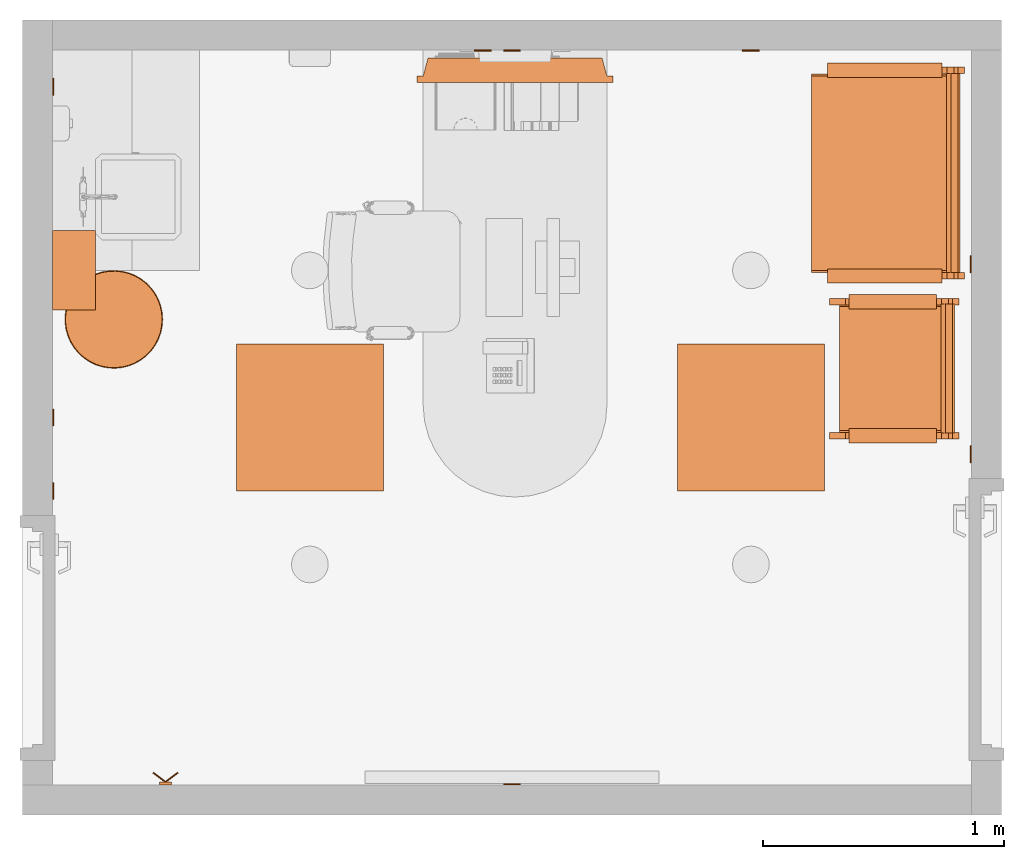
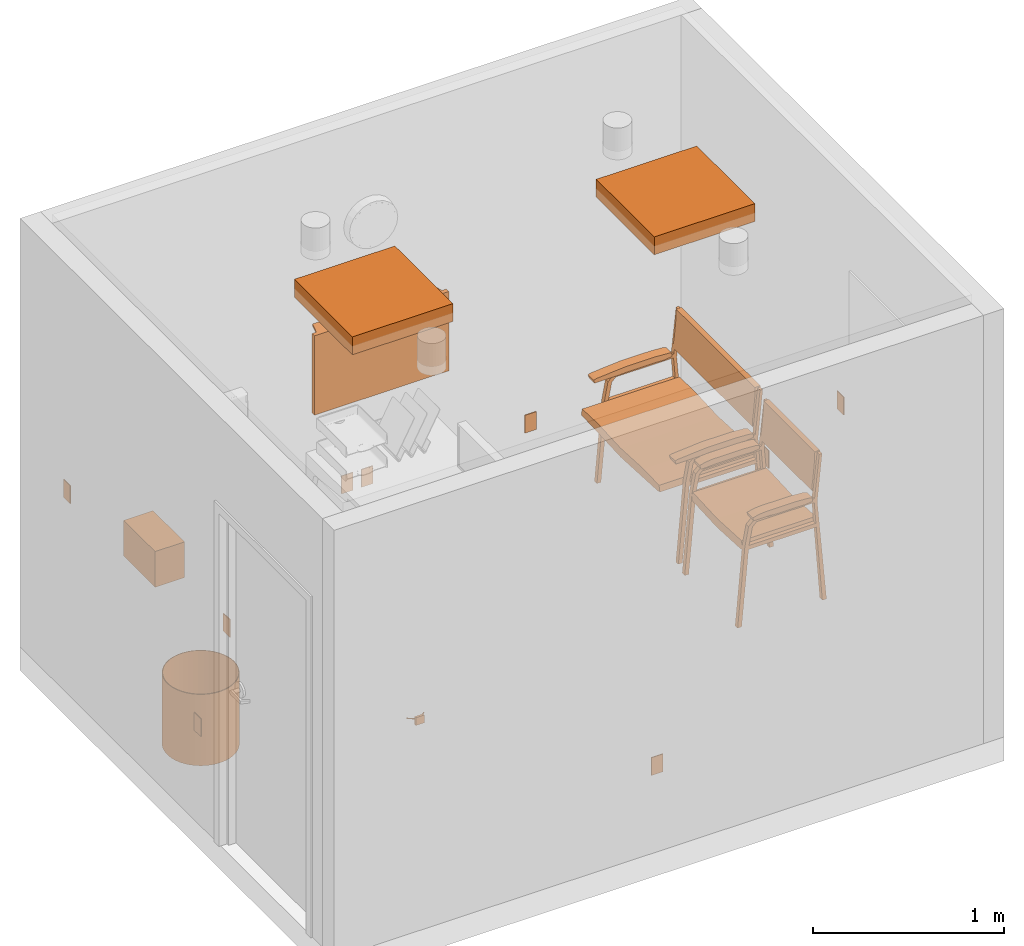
# One storey, part 6 of 10: 17 proxies.
"""IFC2X3 building model written with IfcOpenShell, lengths in feet."""

from ifc_helpers import new_model, entity, si_unit, converted_unit, derived_unit, direction, frame, frame_2d, origin, origin_2d_with_axis, place, context, subcontext, project, spatial, polyline, rectangle, circle, hollow_circle, outline, extrude, source, transform, mapped, type_object, type_shapes, element, save


model = new_model("IFC2X3")

# Units and contexts
model_context = context("Model", 3, precision=0.0001, world=origin(), true_north=direction((6.12303176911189e-17, 1.0)))
body_context = subcontext(model_context, "Body", "Model", "MODEL_VIEW")
ifc_project = project(units=[converted_unit("LENGTHUNIT", "FOOT", entity("IfcRatioMeasure", 0.3048), si_unit("LENGTHUNIT", "METRE"), dimensions=[1, 0, 0, 0, 0, 0, 0]), converted_unit("AREAUNIT", "SQUARE FOOT", entity("IfcRatioMeasure", 0.09290304), si_unit("AREAUNIT", "SQUARE_METRE"), dimensions=[2, 0, 0, 0, 0, 0, 0]), converted_unit("VOLUMEUNIT", "CUBIC FOOT", entity("IfcRatioMeasure", 0.028316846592), si_unit("VOLUMEUNIT", "CUBIC_METRE"), dimensions=[3, 0, 0, 0, 0, 0, 0]), converted_unit("PLANEANGLEUNIT", "DEGREE", entity("IfcRatioMeasure", 0.0174532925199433), si_unit("PLANEANGLEUNIT", "RADIAN"), dimensions=[0, 0, 0, 0, 0, 0, 0]), si_unit("MASSUNIT", "GRAM", prefix="KILO"), derived_unit("MASSDENSITYUNIT", [(si_unit("MASSUNIT", "GRAM", prefix="KILO"), 1), (si_unit("LENGTHUNIT", "METRE"), -3)]), si_unit("TIMEUNIT", "SECOND"), si_unit("FREQUENCYUNIT", "HERTZ"), si_unit("THERMODYNAMICTEMPERATUREUNIT", "DEGREE_CELSIUS"), derived_unit("THERMALTRANSMITTANCEUNIT", [(si_unit("MASSUNIT", "GRAM", prefix="KILO"), 1), (si_unit("THERMODYNAMICTEMPERATUREUNIT", "KELVIN"), -1), (si_unit("TIMEUNIT", "SECOND"), -3)]), derived_unit("VOLUMETRICFLOWRATEUNIT", [(si_unit("LENGTHUNIT", "METRE"), 3), (si_unit("TIMEUNIT", "SECOND"), -1)]), si_unit("ELECTRICCURRENTUNIT", "AMPERE"), si_unit("ELECTRICVOLTAGEUNIT", "VOLT"), si_unit("POWERUNIT", "WATT"), si_unit("FORCEUNIT", "NEWTON"), si_unit("ILLUMINANCEUNIT", "LUX"), si_unit("LUMINOUSFLUXUNIT", "LUMEN"), si_unit("LUMINOUSINTENSITYUNIT", "CANDELA"), derived_unit("USERDEFINED", [(si_unit("MASSUNIT", "GRAM", prefix="KILO"), -1), (si_unit("LENGTHUNIT", "METRE"), -2), (si_unit("TIMEUNIT", "SECOND"), 3), (si_unit("LUMINOUSFLUXUNIT", "LUMEN"), 1)]), derived_unit("LINEARVELOCITYUNIT", [(si_unit("LENGTHUNIT", "METRE"), 1), (si_unit("TIMEUNIT", "SECOND"), -1)]), si_unit("PRESSUREUNIT", "PASCAL"), derived_unit("USERDEFINED", [(si_unit("LENGTHUNIT", "METRE"), -2), (si_unit("MASSUNIT", "GRAM", prefix="KILO"), 1), (si_unit("TIMEUNIT", "SECOND"), -2)])], contexts=[model_context])

# Site, building, storey, space
site_placement = place(None, origin())
site = spatial("IfcSite", under=ifc_project, at=site_placement, Name="Default", CompositionType="ELEMENT")
building_placement = place(site_placement, origin())
building = spatial("IfcBuilding", under=site, at=building_placement, Name="OUTPATIENT / PACT CLINIC (Ch. 265)", CompositionType="ELEMENT")
storey_placement = place(building_placement, origin())
storey = spatial("IfcBuildingStorey", under=building, at=storey_placement, Name="DATUM", CompositionType="ELEMENT", Elevation=0.0)
space_placement = place(storey_placement, origin())
space = spatial("IfcSpace", under=storey, at=space_placement, Name="OFDC2", CompositionType="ELEMENT", InteriorOrExteriorSpace="INTERNAL")

# Proxies
building_element_proxy_type_1 = type_object("IfcBuildingElementProxyType", Name="24\" x 24\"", PredefinedType="NOTDEFINED")
shared_shape_1 = source(origin(), body_context, "Body", "SweptSolid", [
    extrude(rectangle(XDim=2.0, YDim=2.0, at=origin_2d_with_axis()), frame((0.0, 0.0, 8.0)), (0.0, 0.0, 1.0), 0.375),
])
type_shapes(building_element_proxy_type_1, [shared_shape_1])
proxy_1_placement = place(space_placement, frame((-68.7553643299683, -856.690450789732, 1.0)))
element("IfcBuildingElementProxy", 1, at=proxy_1_placement, inside=space, type_object=building_element_proxy_type_1, Name="Return Register:24\" x 24\"", ObjectType="24\" x 24\"", context=body_context, shape_type="MappedRepresentation", body=[
    mapped(shared_shape_1, transform((0.0, 0.0, 0.0), scale=1.0)),
])
building_element_proxy_type_2 = type_object("IfcBuildingElementProxyType", Name="24\" x 24\"", PredefinedType="NOTDEFINED")
shared_shape_2 = source(origin(), body_context, "Body", "SweptSolid", [
    extrude(rectangle(XDim=2.00000000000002, YDim=2.00000000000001, at=origin_2d_with_axis()), frame((0.0, 0.0, 8.0), z_axis=(0.0, 0.0, 1.0), x_axis=(0.0, 1.0, 0.0)), (0.0, 0.0, 1.0), 0.375),
])
type_shapes(building_element_proxy_type_2, [shared_shape_2])
proxy_2_placement = place(space_placement, frame((-74.7553643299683, -856.690450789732, 1.0)))
element("IfcBuildingElementProxy", 2, at=proxy_2_placement, inside=space, type_object=building_element_proxy_type_2, Name="Supply Diffuser:24\" x 24\"", ObjectType="24\" x 24\"", context=body_context, shape_type="MappedRepresentation", body=[
    mapped(shared_shape_2, transform((0.0, 0.0, 0.0), scale=1.0)),
])
building_element_proxy_type_3 = type_object("IfcBuildingElementProxyType", Name="Duplex", PredefinedType="NOTDEFINED")
shared_shape_3 = source(origin(), body_context, "Body", "SweptSolid", [
    extrude(rectangle(XDim=0.0156249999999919, YDim=0.229166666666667, at=origin_2d_with_axis()), frame((0.0, 0.210937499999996, 0.0), z_axis=(0.0, 0.0, 1.0), x_axis=(0.0, 1.0, 0.0)), (0.0, 0.0, 1.0), 0.37500000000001),
])
type_shapes(building_element_proxy_type_3, [shared_shape_3])
proxy_3_placement = place(space_placement, frame((-72.0053884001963, -851.487325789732, 1.31250000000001), z_axis=(0.0, 0.0, 1.0), x_axis=(-1.0, 0.0, 0.0)))
element("IfcBuildingElementProxy", 3, at=proxy_3_placement, inside=space, type_object=building_element_proxy_type_3, Name="Outlet, Duplex, Wall:Duplex", ObjectType="Duplex", context=body_context, shape_type="MappedRepresentation", body=[
    mapped(shared_shape_3, transform((0.0, 0.0, 0.0), scale=1.0)),
])
proxy_4_placement = place(space_placement, frame((-72.0053643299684, -861.893575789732, 1.31249999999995)))
element("IfcBuildingElementProxy", 4, at=proxy_4_placement, inside=space, type_object=building_element_proxy_type_3, Name="Outlet, Duplex, Wall:Duplex", ObjectType="Duplex", context=body_context, shape_type="MappedRepresentation", body=[
    mapped(shared_shape_3, transform((0.0, 0.0, 0.0), scale=1.0)),
])
for number, where, z_axis, x_axis, name in (
    (5, (-78.4584893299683, -856.690450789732, 1.31250000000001), (0.0, 0.0, 1.0), (0.0, -1.0, 0.0), "Outlet, Duplex, Wall:Duplex"),
    (6, (-65.5522393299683, -854.607117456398, 1.3125), (0.0, 0.0, 1.0), (0.0, 1.0, 0.0), "Outlet, Duplex, Wall:Duplex"),
    (7, (-68.7553884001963, -851.487325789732, 1.31250000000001), (0.0, 0.0, 1.0), (-1.0, 0.0, 0.0), "Outlet, Duplex, Wall:Duplex"),
):
    element("IfcBuildingElementProxy", number, at=place(space_placement, frame(where, z_axis=z_axis, x_axis=x_axis)), inside=space, type_object=building_element_proxy_type_3, Name=name, ObjectType="Duplex", context=body_context, shape_type="MappedRepresentation", body=[
        mapped(shared_shape_3, transform((0.0, 0.0, 0.0), scale=1.0)),
    ])
building_element_proxy_type_4 = type_object("IfcBuildingElementProxyType", Name="F0206 - Chair, Side, Bariatric, With Arms", PredefinedType="NOTDEFINED")
shared_shape_4 = source(origin(), body_context, "Body", "SweptSolid", [
    extrude(outline(polyline([(-0.104007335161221, -0.374369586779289), (-0.0277118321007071, -0.374369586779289), (-0.0197350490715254, -0.338348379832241), (0.00592434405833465, -0.182113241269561), (0.0162560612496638, -0.135457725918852), (0.0457826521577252, -0.00212284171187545), (0.0856087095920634, 0.177721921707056), (0.11279838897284, 0.276572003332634), (0.120257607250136, 0.307674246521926), (0.129202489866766, 0.415216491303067), (0.0455811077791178, 0.433734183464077), (0.016702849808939, 0.395704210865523), (-0.0364083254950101, 0.222671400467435), (-0.125070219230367, -0.177704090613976), (-0.13682888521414, -0.27538652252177), (-0.128352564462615, -0.36942248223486), (-0.104007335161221, -0.374369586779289)])), frame((-0.96650236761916, -1.35538162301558, 2.73061112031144), z_axis=(0.0, 1.0, 0.0), x_axis=(0.991475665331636, 0.0, -0.130291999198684)), (0.0, 0.0, 1.0), 2.71239582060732),
    extrude(outline(polyline([(0.21619694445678, -1.29893280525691), (0.358726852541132, -1.29893280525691), (0.359427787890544, -1.28744520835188), (0.131939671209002, 0.0334574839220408), (-0.21576403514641, 1.27413096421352), (-0.250272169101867, 1.33714755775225), (-0.365463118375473, 1.28238708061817), (-0.266199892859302, 0.757316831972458), (-0.0515428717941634, -0.00790943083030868), (0.0829508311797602, -0.791219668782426), (0.21619694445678, -1.29893280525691)])), frame((-0.98091268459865, -0.00278955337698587, 1.62617955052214), z_axis=(1.0, 0.0, 0.0), x_axis=(0.0, -0.219936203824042, -0.975514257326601)), (0.0, 0.0, 1.0), 1.92992997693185),
    extrude(outline(polyline([(-0.642438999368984, -0.27180203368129), (-0.575141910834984, -0.27180203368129), (-0.324245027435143, -0.198283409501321), (0.233932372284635, 0.00487654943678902), (0.761636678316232, 0.245132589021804), (0.812491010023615, 0.279803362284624), (0.769810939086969, 0.339540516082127), (0.329805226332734, 0.179391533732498), (0.164451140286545, 0.108352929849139), (-0.336640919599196, -0.0740296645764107), (-0.526951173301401, -0.136060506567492), (-0.66670933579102, -0.205119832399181), (-0.642438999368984, -0.27180203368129)])), frame((-0.128686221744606, -1.49875249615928, 2.22407286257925), z_axis=(0.0, 1.0, 0.0), x_axis=(0.939692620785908, 0.0, 0.34202014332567)), (0.0, 0.0, 1.0), 0.198199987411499),
    extrude(outline(polyline([(-0.642438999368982, -0.271802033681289), (-0.575141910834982, -0.271802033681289), (-0.32424502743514, -0.19828340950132), (0.233932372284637, 0.00487654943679), (0.761636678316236, 0.245132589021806), (0.812491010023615, 0.279803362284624), (0.769810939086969, 0.339540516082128), (0.329805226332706, 0.179391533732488), (0.164451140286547, 0.10835292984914), (-0.336640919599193, -0.0740296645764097), (-0.526951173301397, -0.136060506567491), (-0.666709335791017, -0.20511983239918), (-0.642438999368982, -0.271802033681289)])), frame((-0.128686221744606, 1.30391416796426, 2.22407286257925), z_axis=(0.0, 1.0, 0.0), x_axis=(0.939692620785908, 0.0, 0.34202014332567)), (0.0, 0.0, 1.0), 0.196499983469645),
    extrude(outline(polyline([(0.0166377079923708, -0.666422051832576), (0.099971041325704, -0.666422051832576), (-0.0172324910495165, 0.673220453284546), (-0.0993762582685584, 0.659623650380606), (0.0166377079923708, -0.666422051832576)])), frame((-0.257785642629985, -1.4439525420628, 1.61480726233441), z_axis=(0.0, 1.0, 0.0), x_axis=(0.0871557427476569, 0.0, -0.996194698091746)), (0.0, 0.0, 1.0), 0.0833333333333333),
    extrude(outline(polyline([(0.0166377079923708, -0.666422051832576), (0.099971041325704, -0.666422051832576), (-0.0172324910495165, 0.673220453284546), (-0.0993762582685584, 0.659623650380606), (0.0166377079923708, -0.666422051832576)])), frame((-0.257785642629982, 1.35701419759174, 1.61480726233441), z_axis=(0.0, 1.0, 0.0), x_axis=(0.0871557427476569, 0.0, -0.996194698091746)), (0.0, 0.0, 1.0), 0.0833333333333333),
    extrude(outline(polyline([(0.811855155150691, -1.61770011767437), (0.895188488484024, -1.61770011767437), (0.71143329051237, 0.489199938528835), (0.806416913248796, 1.46713632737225), (0.751033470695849, 1.46713632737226), (0.656855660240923, 0.571094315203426), (-0.516612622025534, 0.571094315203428), (-0.653571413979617, 0.441277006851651), (-0.728375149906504, 0.0391907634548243), (-0.871611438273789, -1.61770011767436), (-0.791571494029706, -1.61770011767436), (-0.646611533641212, 0.0391998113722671), (-0.578172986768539, 0.407071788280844), (-0.496044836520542, 0.48919993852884), (0.649788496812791, 0.489199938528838), (0.811855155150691, -1.61770011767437)])), frame((-0.239112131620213, -1.4439525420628, 1.61770011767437), z_axis=(0.0, 1.0, 0.0), x_axis=(-1.0, 0.0, 0.0)), (0.0, 0.0, 1.0), 0.0885709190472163),
    extrude(outline(polyline([(0.811855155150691, -1.61770011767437), (0.895188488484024, -1.61770011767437), (0.71143329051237, 0.489199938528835), (0.806416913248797, 1.46713632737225), (0.751033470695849, 1.46713632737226), (0.656855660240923, 0.571094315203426), (-0.516612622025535, 0.571094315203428), (-0.653571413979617, 0.441277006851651), (-0.728375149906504, 0.0391907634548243), (-0.871611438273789, -1.61770011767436), (-0.791571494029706, -1.61770011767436), (-0.646611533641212, 0.0391998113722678), (-0.578172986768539, 0.407071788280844), (-0.496044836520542, 0.48919993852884), (0.649788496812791, 0.489199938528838), (0.811855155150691, -1.61770011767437)])), frame((-0.23911213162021, 1.35701419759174, 1.61770011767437), z_axis=(0.0, 1.0, 0.0), x_axis=(-1.0, 0.0, 0.0)), (0.0, 0.0, 1.0), 0.0885709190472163),
])
type_shapes(building_element_proxy_type_4, [shared_shape_4])
proxy_5_placement = place(space_placement, frame((-66.9809884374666, -853.364586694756, 0.0), z_axis=(0.0, 0.0, 1.0), x_axis=(-1.0, 0.0, 0.0)))
element("IfcBuildingElementProxy", 8, at=proxy_5_placement, inside=space, type_object=building_element_proxy_type_4, Name="F0206 - Chair, Side, Bariatric, With Arms:F0206 - Chair, Side, Bariatric, With Arms", ObjectType="F0206 - Chair, Side, Bariatric, With Arms", context=body_context, shape_type="MappedRepresentation", body=[
    mapped(shared_shape_4, transform((0.0, 0.0, 0.0), scale=1.0)),
])
building_element_proxy_type_5 = type_object("IfcBuildingElementProxyType", Name="F2000 - Basket, Wastepaper", PredefinedType="NOTDEFINED")
shared_shape_5 = source(origin(), body_context, "Body", "SweptSolid", [
    extrude(circle(Radius=0.666666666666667, at=frame_2d((0.0, -1.07702971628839e-15), x_axis=(1.0, 0.0))), origin(), (0.0, 0.0, 1.0), 0.0104166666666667),
    extrude(hollow_circle(Radius=0.666666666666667, WallThickness=0.0104166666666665, at=frame_2d((0.0, -1.07702971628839e-15), x_axis=(1.0, 0.0))), frame((0.0, 0.0, 0.0104166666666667)), (0.0, 0.0, 1.0), 1.48958333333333),
])
type_shapes(building_element_proxy_type_5, [shared_shape_5])
proxy_6_placement = place(space_placement, frame((-77.422030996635, -855.357117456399, 0.0)))
element("IfcBuildingElementProxy", 9, at=proxy_6_placement, inside=space, type_object=building_element_proxy_type_5, Name="F2000 - Basket, Wastepaper:F2000 - Basket, Wastepaper", ObjectType="F2000 - Basket, Wastepaper", context=body_context, shape_type="MappedRepresentation", body=[
    mapped(shared_shape_5, transform((0.0, 0.0, 0.0), scale=1.0)),
])
building_element_proxy_type_6 = type_object("IfcBuildingElementProxyType", Name="A5212 - Bracket, Television, Wall-Mounted, Tilt/Angle 32\"x 4\"", PredefinedType="NOTDEFINED")
shared_shape_6 = source(origin(), body_context, "Body", "SweptSolid", [
    extrude(outline(polyline([(-0.441729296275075, -1.17573421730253), (-0.188344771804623, -1.17573421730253), (0.424755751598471, 1.11238808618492), (0.205318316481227, 1.23908034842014), (-0.441729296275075, -1.17573421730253)])), frame((1.33333333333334, 0.12237532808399, 1.62499999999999), z_axis=(0.0, 0.0, 1.0), x_axis=(0.258819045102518, -0.965925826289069, 0.0)), (0.0, 0.0, 1.0), 0.0416666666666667),
    extrude(outline(polyline([(-0.441729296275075, -1.17573421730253), (-0.188344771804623, -1.17573421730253), (0.424755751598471, 1.11238808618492), (0.205318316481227, 1.23908034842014), (-0.441729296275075, -1.17573421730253)])), frame((1.33333333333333, 0.12237532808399, 0.0), z_axis=(0.0, 0.0, 1.0), x_axis=(0.258819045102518, -0.965925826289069, 0.0)), (0.0, 0.0, 1.0), 0.0416666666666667),
    extrude(rectangle(XDim=2.66666666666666, YDim=0.0833333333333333, at=frame_2d((0.0, 2.77555756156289e-17), x_axis=(1.0, 0.0))), frame((1.33333333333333, 0.286417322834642, 0.0), z_axis=(0.0, 0.0, 1.0), x_axis=(-1.0, 0.0, 0.0)), (0.0, 0.0, 1.0), 1.66666666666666),
])
type_shapes(building_element_proxy_type_6, [shared_shape_6])
proxy_7_placement = place(space_placement, frame((-70.6303643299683, -851.804124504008, 3.5), z_axis=(0.0, 0.0, 1.0), x_axis=(-1.0, 0.0, 0.0)))
element("IfcBuildingElementProxy", 10, at=proxy_7_placement, inside=space, type_object=building_element_proxy_type_6, Name="A5212 - Bracket, Television, Wall-Mounted, TiltAngle 32x 4:A5212 - Bracket, Television, Wall-Mounted, Tilt/Angle 32\"x 4\"", ObjectType="A5212 - Bracket, Television, Wall-Mounted, Tilt/Angle 32\"x 4\"", context=body_context, shape_type="MappedRepresentation", body=[
    mapped(shared_shape_6, transform((0.0, 0.0, 0.0), scale=1.0)),
])
building_element_proxy_type_7 = type_object("IfcBuildingElementProxyType", Name="A5080 - Dispenser, Paper Towel", PredefinedType="NOTDEFINED")
shared_shape_7 = source(origin(), body_context, "Body", "SweptSolid", [
    extrude(rectangle(XDim=1.08333333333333, YDim=0.58333333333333, at=frame_2d((0.0, 9.99200722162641e-16), x_axis=(1.0, 0.0))), frame((0.0, 0.291666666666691, 0.0), z_axis=(0.0, 0.0, 1.0), x_axis=(-1.0, 0.0, 0.0)), (0.0, 0.0, 1.0), 0.75),
])
type_shapes(building_element_proxy_type_7, [shared_shape_7])
proxy_8_placement = place(space_placement, frame((-78.2553643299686, -854.690450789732, 3.5), z_axis=(0.0, 0.0, 1.0), x_axis=(0.0, -1.0, 0.0)))
element("IfcBuildingElementProxy", 11, at=proxy_8_placement, inside=space, type_object=building_element_proxy_type_7, Name="A5080 - Dispenser, Paper Towel:A5080 - Dispenser, Paper Towel", ObjectType="A5080 - Dispenser, Paper Towel", context=body_context, shape_type="MappedRepresentation", body=[
    mapped(shared_shape_7, transform((0.0, 0.0, 0.0), scale=1.0)),
])
building_element_proxy_type_8 = type_object("IfcBuildingElementProxyType", Name="F0205 - Chair, Side With Arms", PredefinedType="NOTDEFINED")
shared_shape_8 = source(origin(), body_context, "Body", "SweptSolid", [
    extrude(outline(polyline([(-0.104007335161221, -0.374369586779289), (-0.027711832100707, -0.374369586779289), (-0.0197350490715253, -0.338348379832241), (0.00592434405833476, -0.182113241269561), (0.0162560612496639, -0.135457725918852), (0.0457826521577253, -0.00212284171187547), (0.0856087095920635, 0.177721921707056), (0.112798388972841, 0.276572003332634), (0.120257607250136, 0.307674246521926), (0.129202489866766, 0.415216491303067), (0.045581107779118, 0.433734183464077), (0.0167028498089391, 0.395704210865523), (-0.0364083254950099, 0.222671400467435), (-0.125070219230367, -0.177704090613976), (-0.13682888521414, -0.27538652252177), (-0.128352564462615, -0.36942248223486), (-0.104007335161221, -0.374369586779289)])), frame((-0.891159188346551, -0.878769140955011, 2.73061112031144), z_axis=(0.0, 1.0, 0.0), x_axis=(0.991475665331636, 0.0, -0.130291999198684)), (0.0, 0.0, 1.0), 1.75919993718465),
    extrude(outline(polyline([(0.0907668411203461, -0.842703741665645), (0.261538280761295, -0.842703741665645), (0.265730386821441, -0.773999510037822), (0.127479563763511, 0.0287496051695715), (-0.0923338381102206, 0.813085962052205), (-0.125373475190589, 0.873420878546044), (-0.279635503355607, 0.800086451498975), (-0.270660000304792, 0.752608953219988), (-0.0560029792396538, -0.0126173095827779), (0.0784907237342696, -0.795927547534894), (0.0907668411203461, -0.842703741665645)])), frame((-0.90556950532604, 0.000822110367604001, 1.62079321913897), z_axis=(1.0, 0.0, 0.0), x_axis=(0.0, -0.219936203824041, -0.975514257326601)), (0.0, 0.0, 1.0), 1.47211210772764),
    extrude(outline(polyline([(-0.552031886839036, -0.234422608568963), (-0.484734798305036, -0.234422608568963), (-0.233837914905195, -0.160903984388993), (0.324339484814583, 0.0422559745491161), (0.453697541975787, 0.101150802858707), (0.564536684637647, 0.176717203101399), (0.51204038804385, 0.250193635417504), (0.420212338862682, 0.216770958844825), (0.254858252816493, 0.145732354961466), (-0.246233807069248, -0.0366502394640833), (-0.436544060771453, -0.0986810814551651), (-0.576302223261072, -0.167740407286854), (-0.552031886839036, -0.234422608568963)])), frame((-0.1510824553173, -1.00916916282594, 2.22827697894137), z_axis=(0.0, 1.0, 0.0), x_axis=(0.939692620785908, 0.0, 0.34202014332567)), (0.0, 0.0, 1.0), 0.198199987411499),
    extrude(outline(polyline([(-0.525375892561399, -0.221085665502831), (-0.458078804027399, -0.221085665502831), (-0.207181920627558, -0.147567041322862), (0.350995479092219, 0.0555929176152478), (0.480353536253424, 0.114487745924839), (0.591192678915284, 0.190054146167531), (0.551062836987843, 0.246221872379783), (0.114629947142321, 0.0873732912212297), (0.281514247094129, 0.159069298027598), (-0.219577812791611, -0.0233132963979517), (-0.409888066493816, -0.0853441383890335), (-0.549646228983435, -0.154403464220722), (-0.525375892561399, -0.221085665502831)])), frame((-0.180692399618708, 0.814330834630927, 2.23169271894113), z_axis=(0.0, 1.0, 0.0), x_axis=(0.939692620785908, 0.0, 0.34202014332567)), (0.0, 0.0, 1.0), 0.196499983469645),
    extrude(outline(polyline([(0.0166377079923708, -0.666422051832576), (0.099971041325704, -0.666422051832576), (-0.0172324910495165, 0.673220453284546), (-0.0993762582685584, 0.659623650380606), (0.0166377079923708, -0.666422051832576)])), frame((-0.182442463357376, -0.954369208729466, 1.61480726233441), z_axis=(0.0, 1.0, 0.0), x_axis=(0.0871557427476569, 0.0, -0.996194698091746)), (0.0, 0.0, 1.0), 0.0833333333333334),
    extrude(outline(polyline([(0.0166377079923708, -0.666422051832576), (0.099971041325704, -0.666422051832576), (-0.0172324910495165, 0.673220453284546), (-0.0993762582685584, 0.659623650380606), (0.0166377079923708, -0.666422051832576)])), frame((-0.182442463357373, 0.867430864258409, 1.61480726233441), z_axis=(0.0, 1.0, 0.0), x_axis=(0.0871557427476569, 0.0, -0.996194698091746)), (0.0, 0.0, 1.0), 0.0833333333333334),
    extrude(outline(polyline([(0.811855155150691, -1.61770011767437), (0.895188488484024, -1.61770011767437), (0.71143329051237, 0.489199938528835), (0.806416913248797, 1.46713632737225), (0.751033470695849, 1.46713632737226), (0.656855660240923, 0.571094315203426), (-0.516612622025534, 0.571094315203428), (-0.653571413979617, 0.441277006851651), (-0.728375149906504, 0.0391907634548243), (-0.871611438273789, -1.61770011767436), (-0.791571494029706, -1.61770011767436), (-0.646611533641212, 0.0391998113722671), (-0.578172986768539, 0.407071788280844), (-0.496044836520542, 0.48919993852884), (0.649788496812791, 0.489199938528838), (0.811855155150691, -1.61770011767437)])), frame((-0.163768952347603, -0.954369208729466, 1.61770011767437), z_axis=(0.0, 1.0, 0.0), x_axis=(-1.0, 0.0, 0.0)), (0.0, 0.0, 1.0), 0.0885709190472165),
    extrude(outline(polyline([(0.811855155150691, -1.61770011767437), (0.895188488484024, -1.61770011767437), (0.71143329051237, 0.489199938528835), (0.806416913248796, 1.46713632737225), (0.751033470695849, 1.46713632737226), (0.656855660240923, 0.571094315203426), (-0.516612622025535, 0.571094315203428), (-0.653571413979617, 0.441277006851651), (-0.728375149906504, 0.0391907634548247), (-0.871611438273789, -1.61770011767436), (-0.791571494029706, -1.61770011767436), (-0.646611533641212, 0.0391998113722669), (-0.578172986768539, 0.407071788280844), (-0.496044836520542, 0.48919993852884), (0.649788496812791, 0.489199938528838), (0.811855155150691, -1.61770011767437)])), frame((-0.1637689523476, 0.867430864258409, 1.61770011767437), z_axis=(0.0, 1.0, 0.0), x_axis=(-1.0, 0.0, 0.0)), (0.0, 0.0, 1.0), 0.0885709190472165),
])
type_shapes(building_element_proxy_type_8, [shared_shape_8])
proxy_9_placement = place(space_placement, frame((-66.9809884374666, -856.024957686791, 0.0), z_axis=(0.0, 0.0, 1.0), x_axis=(-1.0, 0.0, 0.0)))
element("IfcBuildingElementProxy", 12, at=proxy_9_placement, inside=space, type_object=building_element_proxy_type_8, Name="F0205 - Chair, Side With Arms:F0205 - Chair, Side With Arms", ObjectType="F0205 - Chair, Side With Arms", context=body_context, shape_type="MappedRepresentation", body=[
    mapped(shared_shape_8, transform((0.0, 0.0, 0.0), scale=1.0)),
])
building_element_proxy_type_9 = type_object("IfcBuildingElementProxyType", Name="A5145 - Hook, Garment, Double", PredefinedType="NOTDEFINED")
shared_shape_9 = source(origin(), body_context, "Body", "SweptSolid", [
    extrude(circle(Radius=0.0105952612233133, at=frame_2d((-1.64551454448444e-31, -4.16333634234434e-17), x_axis=(1.0, 0.0))), frame((-0.169086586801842, -0.168481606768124, 0.0833333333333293), z_axis=(0.799999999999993, 0.60000000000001, 0.0), x_axis=(0.60000000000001, -0.799999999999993, 0.0)), (0.0, 0.0, 1.0), 0.211358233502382),
    extrude(circle(Radius=0.0105952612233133, at=frame_2d((5.2041704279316e-19, 2.77555756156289e-17), x_axis=(1.0, 0.0))), frame((0.0, -0.0416666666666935, 0.083333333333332), z_axis=(0.799999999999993, -0.60000000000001, 0.0), x_axis=(-0.60000000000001, -0.799999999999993, 0.0)), (0.0, 0.0, 1.0), 0.211358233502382),
    extrude(rectangle(XDim=0.0416666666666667, YDim=0.166666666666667, at=origin_2d_with_axis()), frame((0.0, -0.0208333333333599, 0.0), z_axis=(0.0, 0.0, 1.0), x_axis=(0.0, 1.0, 0.0)), (0.0, 0.0, 1.0), 0.166666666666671),
])
type_shapes(building_element_proxy_type_9, [shared_shape_9])
proxy_10_placement = place(space_placement, frame((-76.718905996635, -861.690450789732, 4.0), z_axis=(0.0, 0.0, 1.0), x_axis=(-1.0, 0.0, 0.0)))
element("IfcBuildingElementProxy", 13, at=proxy_10_placement, inside=space, type_object=building_element_proxy_type_9, Name="A5145 - Hook, Garment, Double:A5145 - Hook, Garment, Double", ObjectType="A5145 - Hook, Garment, Double", context=body_context, shape_type="MappedRepresentation", body=[
    mapped(shared_shape_9, transform((0.0, 0.0, 0.0), scale=1.0)),
])
building_element_proxy_type_10 = type_object("IfcBuildingElementProxyType", Name="Telephone/Data", PredefinedType="NOTDEFINED")
shared_shape_10 = source(origin(), body_context, "Body", "SweptSolid", [
    extrude(rectangle(XDim=0.0156249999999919, YDim=0.229166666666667, at=origin_2d_with_axis()), frame((0.0, 0.210937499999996, 0.0), z_axis=(0.0, 0.0, 1.0), x_axis=(0.0, 1.0, 0.0)), (0.0, 0.0, 1.0), 0.375),
])
type_shapes(building_element_proxy_type_10, [shared_shape_10])
proxy_11_placement = place(space_placement, frame((-72.4012217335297, -851.487325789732, 1.31250000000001), z_axis=(0.0, 0.0, 1.0), x_axis=(-1.0, 0.0, 0.0)))
element("IfcBuildingElementProxy", 14, at=proxy_11_placement, inside=space, type_object=building_element_proxy_type_10, Name="Outlet, Communications:Telephone/Data", ObjectType="Telephone/Data", context=body_context, shape_type="MappedRepresentation", body=[
    mapped(shared_shape_10, transform((0.0, 0.0, 0.0), scale=1.0)),
])
building_element_proxy_type_11 = type_object("IfcBuildingElementProxyType", Name="Single", PredefinedType="NOTDEFINED")
shared_shape_11 = source(origin(), body_context, "Body", "SweptSolid", [
    extrude(rectangle(XDim=0.0156249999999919, YDim=0.229166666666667, at=frame_2d((0.0, -1.11022302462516e-16), x_axis=(1.0, 0.0))), frame((0.0, 0.210937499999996, 0.0), z_axis=(0.0, 0.0, 1.0), x_axis=(0.0, 1.0, 0.0)), (0.0, 0.0, 1.0), 0.37500000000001),
])
type_shapes(building_element_proxy_type_11, [shared_shape_11])
for number, where, z_axis, x_axis, name in (
    (15, (-65.5522393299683, -857.190450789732, 4.0), (0.0, 0.0, 1.0), (0.0, 1.0, 0.0), "Switch, Single:Single"),
    (16, (-78.4584893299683, -857.690450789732, 4.0), (0.0, 0.0, 1.0), (0.0, -1.0, 0.0), "Switch, Single:Single"),
):
    element("IfcBuildingElementProxy", number, at=place(space_placement, frame(where, z_axis=z_axis, x_axis=x_axis)), inside=space, type_object=building_element_proxy_type_11, Name=name, ObjectType="Single", context=body_context, shape_type="MappedRepresentation", body=[
        mapped(shared_shape_11, transform((0.0, 0.0, 0.0), scale=1.0)),
    ])
building_element_proxy_type_12 = type_object("IfcBuildingElementProxyType", Name="Duplex", PredefinedType="NOTDEFINED")
shared_shape_12 = source(origin(), body_context, "Body", "SweptSolid", [
    extrude(rectangle(XDim=0.0156249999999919, YDim=0.229166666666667, at=origin_2d_with_axis()), frame((0.0, 0.210937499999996, 0.0), z_axis=(0.0, 0.0, 1.0), x_axis=(0.0, 1.0, 0.0)), (0.0, 0.0, 1.0), 0.37500000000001),
])
type_shapes(building_element_proxy_type_12, [shared_shape_12])
proxy_12_placement = place(space_placement, frame((-78.4584893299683, -852.190450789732, 3.47916666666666), z_axis=(0.0, 0.0, 1.0), x_axis=(0.0, -1.0, 0.0)))
element("IfcBuildingElementProxy", 17, at=proxy_12_placement, inside=space, type_object=building_element_proxy_type_12, Name="Outlet, Duplex, Wall:Duplex", ObjectType="Duplex", context=body_context, shape_type="MappedRepresentation", body=[
    mapped(shared_shape_12, transform((0.0, 0.0, 0.0), scale=1.0)),
])

save(model, "model.ifc")
